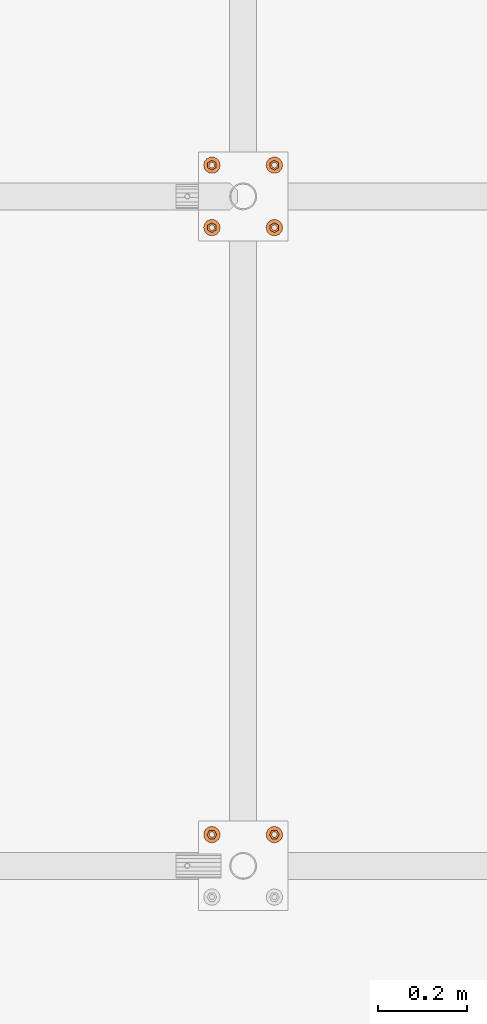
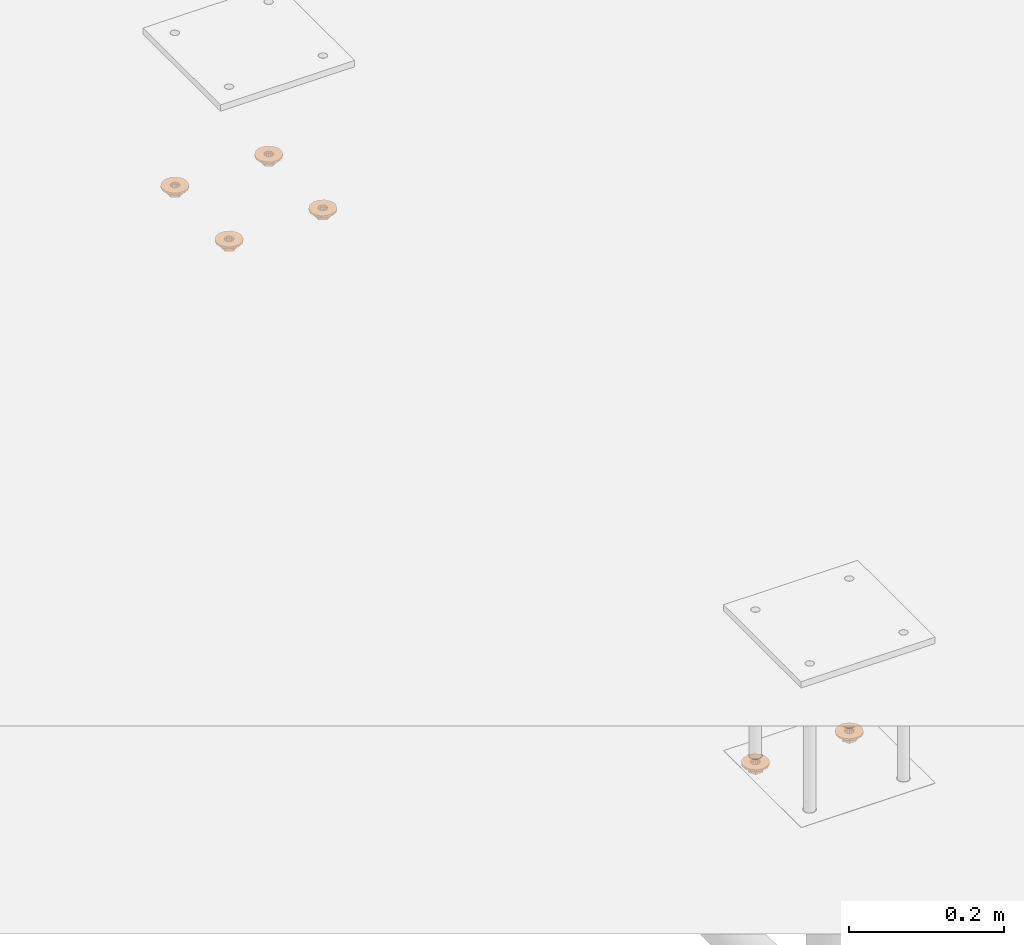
# One storey, part 22 of 30: 12 proxies.
"""IFC2X3 building model written with IfcOpenShell, lengths in millimetres."""

from ifc_helpers import new_model, entity, si_unit, converted_unit, origin_with_axes, place, context, project, spatial, faceted_brep, material, element, save


model = new_model("IFC2X3")

# Units and contexts
model_context = context("Model", 3, precision=1e-09, world=origin_with_axes())
ifc_project = project(units=[si_unit("LENGTHUNIT", "METRE", prefix="MILLI"), si_unit("AREAUNIT", "SQUARE_METRE"), si_unit("VOLUMEUNIT", "CUBIC_METRE"), converted_unit("PLANEANGLEUNIT", "DEGREE", entity("IfcPlaneAngleMeasure", 0.01745329), si_unit("PLANEANGLEUNIT", "RADIAN"), dimensions=[0, 0, 0, 0, 0, 0, 0])], contexts=[model_context])

# Site, building, storey
site_placement = place(None, origin_with_axes())
site = spatial("IfcSite", under=ifc_project, at=site_placement, Name="M?nsinger Stra?e, 81477 M?nchen", CompositionType="ELEMENT")
building_placement = place(site_placement, origin_with_axes())
building = spatial("IfcBuilding", under=site, at=building_placement, Name="Struktur 1", CompositionType="ELEMENT")
storey_placement = place(building_placement, origin_with_axes())
storey = spatial("IfcBuildingStorey", under=building, at=storey_placement, Name="Default Storey", CompositionType="ELEMENT", Elevation=0.0)

# Proxies
ifc_material = material(Name="Kein")
proxy_1_placement = place(None, origin_with_axes())
element("IfcBuildingElementProxy", 1, at=proxy_1_placement, inside=storey, material=ifc_material, ObjectType="-", context=model_context, shape_type="Brep", body=[
    faceted_brep([(4487.849678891, 3046.799376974, 6515.0), (4487.849678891, 3046.799376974, 6512.0), (4492.983041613, 3053.236410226, 6512.0), (4492.983041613, 3053.236410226, 6515.0), (4472.198480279, 3043.227093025, 6515.0), (4480.431754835, 3043.227093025, 6515.0), (4494.815117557, 3061.2632594, 6515.0), (4492.983041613, 3069.290108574, 6515.0), (4487.849678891, 3075.727141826, 6515.0), (4480.431754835, 3079.299425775, 6515.0), (4472.198480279, 3079.299425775, 6515.0), (4464.780556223, 3075.727141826, 6515.0), (4459.647193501, 3069.290108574, 6515.0), (4457.815117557, 3061.2632594, 6515.0), (4459.647193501, 3053.236410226, 6515.0), (4464.780556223, 3046.799376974, 6515.0), (4479.565117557, 3055.634094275, 6515.0), (4476.315117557, 3054.7632594, 6515.0), (4473.065117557, 3055.634094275, 6515.0), (4470.685952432, 3058.0132594, 6515.0), (4469.815117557, 3061.2632594, 6515.0), (4470.685952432, 3064.5132594, 6515.0), (4473.065117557, 3066.892424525, 6515.0), (4476.315117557, 3067.7632594, 6515.0), (4479.565117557, 3066.892424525, 6515.0), (4481.944282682, 3064.5132594, 6515.0), (4482.815117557, 3061.2632594, 6515.0), (4481.944282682, 3058.0132594, 6515.0), (4492.983041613, 3069.290108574, 6512.0), (4494.815117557, 3061.2632594, 6512.0), (4480.431754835, 3043.227093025, 6512.0), (4472.198480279, 3043.227093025, 6512.0), (4464.780556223, 3046.799376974, 6512.0), (4459.647193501, 3053.236410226, 6512.0), (4457.815117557, 3061.2632594, 6512.0), (4459.647193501, 3069.290108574, 6512.0), (4464.780556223, 3075.727141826, 6512.0), (4472.198480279, 3079.299425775, 6512.0), (4480.431754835, 3079.299425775, 6512.0), (4487.849678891, 3075.727141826, 6512.0), (4482.815117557, 3061.2632594, 6512.0), (4481.944282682, 3064.5132594, 6512.0), (4479.565117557, 3066.892424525, 6512.0), (4476.315117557, 3067.7632594, 6512.0), (4473.065117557, 3066.892424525, 6512.0), (4470.685952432, 3064.5132594, 6512.0), (4469.815117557, 3061.2632594, 6512.0), (4470.685952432, 3058.0132594, 6512.0), (4473.065117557, 3055.634094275, 6512.0), (4476.315117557, 3054.7632594, 6512.0), (4479.565117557, 3055.634094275, 6512.0), (4481.944282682, 3058.0132594, 6512.0)], [[[0, 1, 2, 3]], [[4, 5, 0, 3, 6, 7, 8, 9, 10, 11, 12, 13, 14, 15], [16, 17, 18, 19, 20, 21, 22, 23, 24, 25, 26, 27]], [[28, 29, 2, 1, 30, 31, 32, 33, 34, 35, 36, 37, 38, 39], [40, 41, 42, 43, 44, 45, 46, 47, 48, 49, 50, 51]], [[1, 0, 5, 30]], [[27, 51, 50, 16]], [[51, 27, 26, 40]], [[3, 2, 29, 6]], [[30, 5, 4, 31]], [[16, 50, 49, 17]], [[40, 26, 25, 41]], [[6, 29, 28, 7]], [[31, 4, 15, 32]], [[17, 49, 48, 18]], [[41, 25, 24, 42]], [[7, 28, 39, 8]], [[32, 15, 14, 33]], [[18, 48, 47, 19]], [[42, 24, 23, 43]], [[8, 39, 38, 9]], [[33, 14, 13, 34]], [[19, 47, 46, 20]], [[22, 44, 43, 23]], [[9, 38, 37, 10]], [[45, 21, 20, 46]], [[44, 22, 21, 45]], [[34, 13, 12, 35]], [[10, 37, 36, 11]], [[35, 12, 11, 36]]]),
])
proxy_2_placement = place(None, origin_with_axes())
element("IfcBuildingElementProxy", 2, at=proxy_2_placement, inside=storey, material=ifc_material, ObjectType="-", context=model_context, shape_type="Brep", body=[
    faceted_brep([(4482.315117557, 3061.2632594, 6512.0), (4482.315117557, 3061.2632594, 6502.0), (4481.51126998, 3058.2632594, 6502.0), (4481.51126998, 3058.2632594, 6512.0), (4479.315117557, 3056.067106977, 6502.0), (4479.315117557, 3056.067106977, 6512.0), (4481.51126998, 3064.2632594, 6512.0), (4481.51126998, 3064.2632594, 6502.0), (4485.815117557, 3066.748086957, 6512.0), (4476.315117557, 3072.232914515, 6512.0), (4466.815117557, 3066.748086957, 6512.0), (4466.815117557, 3055.778431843, 6512.0), (4476.315117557, 3050.293604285, 6512.0), (4485.815117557, 3055.778431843, 6512.0), (4479.315117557, 3066.459411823, 6512.0), (4476.315117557, 3055.2632594, 6512.0), (4473.315117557, 3056.067106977, 6512.0), (4471.118965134, 3058.2632594, 6512.0), (4470.315117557, 3061.2632594, 6512.0), (4471.118965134, 3064.2632594, 6512.0), (4473.315117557, 3066.459411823, 6512.0), (4476.315117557, 3067.2632594, 6512.0), (4476.315117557, 3072.232914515, 6502.0), (4485.815117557, 3066.748086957, 6502.0), (4485.815117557, 3055.778431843, 6502.0), (4476.315117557, 3050.293604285, 6502.0), (4466.815117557, 3055.778431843, 6502.0), (4466.815117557, 3066.748086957, 6502.0), (4479.315117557, 3066.459411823, 6502.0), (4476.315117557, 3067.2632594, 6502.0), (4473.315117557, 3066.459411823, 6502.0), (4471.118965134, 3064.2632594, 6502.0), (4470.315117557, 3061.2632594, 6502.0), (4471.118965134, 3058.2632594, 6502.0), (4473.315117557, 3056.067106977, 6502.0), (4476.315117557, 3055.2632594, 6502.0)], [[[0, 1, 2, 3]], [[3, 2, 4, 5]], [[1, 0, 6, 7]], [[8, 9, 10, 11, 12, 13], [14, 6, 0, 3, 5, 15, 16, 17, 18, 19, 20, 21]], [[22, 23, 24, 25, 26, 27], [1, 7, 28, 29, 30, 31, 32, 33, 34, 35, 4, 2]], [[7, 6, 14, 28]], [[24, 23, 8, 13]], [[5, 4, 35, 15]], [[13, 12, 25, 24]], [[28, 14, 21, 29]], [[23, 22, 9, 8]], [[15, 35, 34, 16]], [[12, 11, 26, 25]], [[29, 21, 20, 30]], [[22, 27, 10, 9]], [[16, 34, 33, 17]], [[27, 26, 11, 10]], [[30, 20, 19, 31]], [[17, 33, 32, 18]], [[31, 19, 18, 32]]]),
])
proxy_3_placement = place(None, origin_with_axes())
element("IfcBuildingElementProxy", 3, at=proxy_3_placement, inside=storey, material=ifc_material, ObjectType="-", context=model_context, shape_type="Brep", body=[
    faceted_brep([(4342.315117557, 3061.2632594, 6512.0), (4342.315117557, 3061.2632594, 6502.0), (4341.51126998, 3058.2632594, 6502.0), (4341.51126998, 3058.2632594, 6512.0), (4339.315117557, 3056.067106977, 6502.0), (4339.315117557, 3056.067106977, 6512.0), (4341.51126998, 3064.2632594, 6512.0), (4341.51126998, 3064.2632594, 6502.0), (4345.815117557, 3066.748086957, 6512.0), (4336.315117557, 3072.232914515, 6512.0), (4326.815117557, 3066.748086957, 6512.0), (4326.815117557, 3055.778431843, 6512.0), (4336.315117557, 3050.293604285, 6512.0), (4345.815117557, 3055.778431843, 6512.0), (4339.315117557, 3066.459411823, 6512.0), (4336.315117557, 3055.2632594, 6512.0), (4333.315117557, 3056.067106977, 6512.0), (4331.118965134, 3058.2632594, 6512.0), (4330.315117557, 3061.2632594, 6512.0), (4331.118965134, 3064.2632594, 6512.0), (4333.315117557, 3066.459411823, 6512.0), (4336.315117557, 3067.2632594, 6512.0), (4336.315117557, 3072.232914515, 6502.0), (4345.815117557, 3066.748086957, 6502.0), (4345.815117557, 3055.778431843, 6502.0), (4336.315117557, 3050.293604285, 6502.0), (4326.815117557, 3055.778431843, 6502.0), (4326.815117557, 3066.748086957, 6502.0), (4339.315117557, 3066.459411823, 6502.0), (4336.315117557, 3067.2632594, 6502.0), (4333.315117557, 3066.459411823, 6502.0), (4331.118965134, 3064.2632594, 6502.0), (4330.315117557, 3061.2632594, 6502.0), (4331.118965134, 3058.2632594, 6502.0), (4333.315117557, 3056.067106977, 6502.0), (4336.315117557, 3055.2632594, 6502.0)], [[[0, 1, 2, 3]], [[3, 2, 4, 5]], [[1, 0, 6, 7]], [[8, 9, 10, 11, 12, 13], [14, 6, 0, 3, 5, 15, 16, 17, 18, 19, 20, 21]], [[22, 23, 24, 25, 26, 27], [1, 7, 28, 29, 30, 31, 32, 33, 34, 35, 4, 2]], [[7, 6, 14, 28]], [[24, 23, 8, 13]], [[5, 4, 35, 15]], [[13, 12, 25, 24]], [[28, 14, 21, 29]], [[23, 22, 9, 8]], [[15, 35, 34, 16]], [[12, 11, 26, 25]], [[29, 21, 20, 30]], [[22, 27, 10, 9]], [[16, 34, 33, 17]], [[27, 26, 11, 10]], [[30, 20, 19, 31]], [[17, 33, 32, 18]], [[31, 19, 18, 32]]]),
])
proxy_4_placement = place(None, origin_with_axes())
element("IfcBuildingElementProxy", 4, at=proxy_4_placement, inside=storey, material=ifc_material, ObjectType="-", context=model_context, shape_type="Brep", body=[
    faceted_brep([(4347.849678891, 3046.799376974, 6515.0), (4347.849678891, 3046.799376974, 6512.0), (4352.983041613, 3053.236410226, 6512.0), (4352.983041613, 3053.236410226, 6515.0), (4332.198480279, 3043.227093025, 6515.0), (4340.431754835, 3043.227093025, 6515.0), (4354.815117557, 3061.2632594, 6515.0), (4352.983041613, 3069.290108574, 6515.0), (4347.849678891, 3075.727141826, 6515.0), (4340.431754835, 3079.299425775, 6515.0), (4332.198480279, 3079.299425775, 6515.0), (4324.780556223, 3075.727141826, 6515.0), (4319.647193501, 3069.290108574, 6515.0), (4317.815117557, 3061.2632594, 6515.0), (4319.647193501, 3053.236410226, 6515.0), (4324.780556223, 3046.799376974, 6515.0), (4339.565117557, 3055.634094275, 6515.0), (4336.315117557, 3054.7632594, 6515.0), (4333.065117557, 3055.634094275, 6515.0), (4330.685952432, 3058.0132594, 6515.0), (4329.815117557, 3061.2632594, 6515.0), (4330.685952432, 3064.5132594, 6515.0), (4333.065117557, 3066.892424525, 6515.0), (4336.315117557, 3067.7632594, 6515.0), (4339.565117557, 3066.892424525, 6515.0), (4341.944282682, 3064.5132594, 6515.0), (4342.815117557, 3061.2632594, 6515.0), (4341.944282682, 3058.0132594, 6515.0), (4352.983041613, 3069.290108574, 6512.0), (4354.815117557, 3061.2632594, 6512.0), (4340.431754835, 3043.227093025, 6512.0), (4332.198480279, 3043.227093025, 6512.0), (4324.780556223, 3046.799376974, 6512.0), (4319.647193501, 3053.236410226, 6512.0), (4317.815117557, 3061.2632594, 6512.0), (4319.647193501, 3069.290108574, 6512.0), (4324.780556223, 3075.727141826, 6512.0), (4332.198480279, 3079.299425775, 6512.0), (4340.431754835, 3079.299425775, 6512.0), (4347.849678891, 3075.727141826, 6512.0), (4342.815117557, 3061.2632594, 6512.0), (4341.944282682, 3064.5132594, 6512.0), (4339.565117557, 3066.892424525, 6512.0), (4336.315117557, 3067.7632594, 6512.0), (4333.065117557, 3066.892424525, 6512.0), (4330.685952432, 3064.5132594, 6512.0), (4329.815117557, 3061.2632594, 6512.0), (4330.685952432, 3058.0132594, 6512.0), (4333.065117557, 3055.634094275, 6512.0), (4336.315117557, 3054.7632594, 6512.0), (4339.565117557, 3055.634094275, 6512.0), (4341.944282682, 3058.0132594, 6512.0)], [[[0, 1, 2, 3]], [[4, 5, 0, 3, 6, 7, 8, 9, 10, 11, 12, 13, 14, 15], [16, 17, 18, 19, 20, 21, 22, 23, 24, 25, 26, 27]], [[28, 29, 2, 1, 30, 31, 32, 33, 34, 35, 36, 37, 38, 39], [40, 41, 42, 43, 44, 45, 46, 47, 48, 49, 50, 51]], [[1, 0, 5, 30]], [[27, 51, 50, 16]], [[51, 27, 26, 40]], [[3, 2, 29, 6]], [[30, 5, 4, 31]], [[16, 50, 49, 17]], [[40, 26, 25, 41]], [[6, 29, 28, 7]], [[31, 4, 15, 32]], [[17, 49, 48, 18]], [[41, 25, 24, 42]], [[7, 28, 39, 8]], [[32, 15, 14, 33]], [[18, 48, 47, 19]], [[42, 24, 23, 43]], [[8, 39, 38, 9]], [[33, 14, 13, 34]], [[19, 47, 46, 20]], [[22, 44, 43, 23]], [[9, 38, 37, 10]], [[45, 21, 20, 46]], [[44, 22, 21, 45]], [[34, 13, 12, 35]], [[10, 37, 36, 11]], [[35, 12, 11, 36]]]),
])
proxy_5_placement = place(None, origin_with_axes())
element("IfcBuildingElementProxy", 5, at=proxy_5_placement, inside=storey, material=ifc_material, ObjectType="-", context=model_context, shape_type="Brep", body=[
    faceted_brep([(4347.849678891, 2906.799376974, 6515.0), (4347.849678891, 2906.799376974, 6512.0), (4352.983041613, 2913.236410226, 6512.0), (4352.983041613, 2913.236410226, 6515.0), (4332.198480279, 2903.227093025, 6515.0), (4340.431754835, 2903.227093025, 6515.0), (4354.815117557, 2921.2632594, 6515.0), (4352.983041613, 2929.290108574, 6515.0), (4347.849678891, 2935.727141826, 6515.0), (4340.431754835, 2939.299425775, 6515.0), (4332.198480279, 2939.299425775, 6515.0), (4324.780556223, 2935.727141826, 6515.0), (4319.647193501, 2929.290108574, 6515.0), (4317.815117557, 2921.2632594, 6515.0), (4319.647193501, 2913.236410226, 6515.0), (4324.780556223, 2906.799376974, 6515.0), (4339.565117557, 2915.634094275, 6515.0), (4336.315117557, 2914.7632594, 6515.0), (4333.065117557, 2915.634094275, 6515.0), (4330.685952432, 2918.0132594, 6515.0), (4329.815117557, 2921.2632594, 6515.0), (4330.685952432, 2924.5132594, 6515.0), (4333.065117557, 2926.892424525, 6515.0), (4336.315117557, 2927.7632594, 6515.0), (4339.565117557, 2926.892424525, 6515.0), (4341.944282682, 2924.5132594, 6515.0), (4342.815117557, 2921.2632594, 6515.0), (4341.944282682, 2918.0132594, 6515.0), (4352.983041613, 2929.290108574, 6512.0), (4354.815117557, 2921.2632594, 6512.0), (4340.431754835, 2903.227093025, 6512.0), (4332.198480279, 2903.227093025, 6512.0), (4324.780556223, 2906.799376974, 6512.0), (4319.647193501, 2913.236410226, 6512.0), (4317.815117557, 2921.2632594, 6512.0), (4319.647193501, 2929.290108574, 6512.0), (4324.780556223, 2935.727141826, 6512.0), (4332.198480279, 2939.299425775, 6512.0), (4340.431754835, 2939.299425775, 6512.0), (4347.849678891, 2935.727141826, 6512.0), (4342.815117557, 2921.2632594, 6512.0), (4341.944282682, 2924.5132594, 6512.0), (4339.565117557, 2926.892424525, 6512.0), (4336.315117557, 2927.7632594, 6512.0), (4333.065117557, 2926.892424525, 6512.0), (4330.685952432, 2924.5132594, 6512.0), (4329.815117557, 2921.2632594, 6512.0), (4330.685952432, 2918.0132594, 6512.0), (4333.065117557, 2915.634094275, 6512.0), (4336.315117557, 2914.7632594, 6512.0), (4339.565117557, 2915.634094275, 6512.0), (4341.944282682, 2918.0132594, 6512.0)], [[[0, 1, 2, 3]], [[4, 5, 0, 3, 6, 7, 8, 9, 10, 11, 12, 13, 14, 15], [16, 17, 18, 19, 20, 21, 22, 23, 24, 25, 26, 27]], [[28, 29, 2, 1, 30, 31, 32, 33, 34, 35, 36, 37, 38, 39], [40, 41, 42, 43, 44, 45, 46, 47, 48, 49, 50, 51]], [[1, 0, 5, 30]], [[27, 51, 50, 16]], [[51, 27, 26, 40]], [[3, 2, 29, 6]], [[30, 5, 4, 31]], [[16, 50, 49, 17]], [[40, 26, 25, 41]], [[6, 29, 28, 7]], [[31, 4, 15, 32]], [[17, 49, 48, 18]], [[41, 25, 24, 42]], [[7, 28, 39, 8]], [[32, 15, 14, 33]], [[18, 48, 47, 19]], [[42, 24, 23, 43]], [[8, 39, 38, 9]], [[33, 14, 13, 34]], [[19, 47, 46, 20]], [[22, 44, 43, 23]], [[9, 38, 37, 10]], [[45, 21, 20, 46]], [[44, 22, 21, 45]], [[34, 13, 12, 35]], [[10, 37, 36, 11]], [[35, 12, 11, 36]]]),
])
proxy_6_placement = place(None, origin_with_axes())
element("IfcBuildingElementProxy", 6, at=proxy_6_placement, inside=storey, material=ifc_material, ObjectType="-", context=model_context, shape_type="Brep", body=[
    faceted_brep([(4342.315117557, 2921.2632594, 6512.0), (4342.315117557, 2921.2632594, 6502.0), (4341.51126998, 2918.2632594, 6502.0), (4341.51126998, 2918.2632594, 6512.0), (4339.315117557, 2916.067106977, 6502.0), (4339.315117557, 2916.067106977, 6512.0), (4341.51126998, 2924.2632594, 6512.0), (4341.51126998, 2924.2632594, 6502.0), (4345.815117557, 2926.748086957, 6512.0), (4336.315117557, 2932.232914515, 6512.0), (4326.815117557, 2926.748086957, 6512.0), (4326.815117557, 2915.778431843, 6512.0), (4336.315117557, 2910.293604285, 6512.0), (4345.815117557, 2915.778431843, 6512.0), (4339.315117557, 2926.459411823, 6512.0), (4336.315117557, 2915.2632594, 6512.0), (4333.315117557, 2916.067106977, 6512.0), (4331.118965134, 2918.2632594, 6512.0), (4330.315117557, 2921.2632594, 6512.0), (4331.118965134, 2924.2632594, 6512.0), (4333.315117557, 2926.459411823, 6512.0), (4336.315117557, 2927.2632594, 6512.0), (4336.315117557, 2932.232914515, 6502.0), (4345.815117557, 2926.748086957, 6502.0), (4345.815117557, 2915.778431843, 6502.0), (4336.315117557, 2910.293604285, 6502.0), (4326.815117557, 2915.778431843, 6502.0), (4326.815117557, 2926.748086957, 6502.0), (4339.315117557, 2926.459411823, 6502.0), (4336.315117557, 2927.2632594, 6502.0), (4333.315117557, 2926.459411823, 6502.0), (4331.118965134, 2924.2632594, 6502.0), (4330.315117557, 2921.2632594, 6502.0), (4331.118965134, 2918.2632594, 6502.0), (4333.315117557, 2916.067106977, 6502.0), (4336.315117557, 2915.2632594, 6502.0)], [[[0, 1, 2, 3]], [[3, 2, 4, 5]], [[1, 0, 6, 7]], [[8, 9, 10, 11, 12, 13], [14, 6, 0, 3, 5, 15, 16, 17, 18, 19, 20, 21]], [[22, 23, 24, 25, 26, 27], [1, 7, 28, 29, 30, 31, 32, 33, 34, 35, 4, 2]], [[7, 6, 14, 28]], [[24, 23, 8, 13]], [[5, 4, 35, 15]], [[13, 12, 25, 24]], [[28, 14, 21, 29]], [[23, 22, 9, 8]], [[15, 35, 34, 16]], [[12, 11, 26, 25]], [[29, 21, 20, 30]], [[22, 27, 10, 9]], [[16, 34, 33, 17]], [[27, 26, 11, 10]], [[30, 20, 19, 31]], [[17, 33, 32, 18]], [[31, 19, 18, 32]]]),
])
proxy_7_placement = place(None, origin_with_axes())
element("IfcBuildingElementProxy", 7, at=proxy_7_placement, inside=storey, material=ifc_material, ObjectType="-", context=model_context, shape_type="Brep", body=[
    faceted_brep([(4482.315117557, 2921.2632594, 6512.0), (4482.315117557, 2921.2632594, 6502.0), (4481.51126998, 2918.2632594, 6502.0), (4481.51126998, 2918.2632594, 6512.0), (4479.315117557, 2916.067106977, 6502.0), (4479.315117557, 2916.067106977, 6512.0), (4481.51126998, 2924.2632594, 6512.0), (4481.51126998, 2924.2632594, 6502.0), (4485.815117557, 2926.748086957, 6512.0), (4476.315117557, 2932.232914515, 6512.0), (4466.815117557, 2926.748086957, 6512.0), (4466.815117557, 2915.778431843, 6512.0), (4476.315117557, 2910.293604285, 6512.0), (4485.815117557, 2915.778431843, 6512.0), (4479.315117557, 2926.459411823, 6512.0), (4476.315117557, 2915.2632594, 6512.0), (4473.315117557, 2916.067106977, 6512.0), (4471.118965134, 2918.2632594, 6512.0), (4470.315117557, 2921.2632594, 6512.0), (4471.118965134, 2924.2632594, 6512.0), (4473.315117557, 2926.459411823, 6512.0), (4476.315117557, 2927.2632594, 6512.0), (4476.315117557, 2932.232914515, 6502.0), (4485.815117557, 2926.748086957, 6502.0), (4485.815117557, 2915.778431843, 6502.0), (4476.315117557, 2910.293604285, 6502.0), (4466.815117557, 2915.778431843, 6502.0), (4466.815117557, 2926.748086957, 6502.0), (4479.315117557, 2926.459411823, 6502.0), (4476.315117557, 2927.2632594, 6502.0), (4473.315117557, 2926.459411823, 6502.0), (4471.118965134, 2924.2632594, 6502.0), (4470.315117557, 2921.2632594, 6502.0), (4471.118965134, 2918.2632594, 6502.0), (4473.315117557, 2916.067106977, 6502.0), (4476.315117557, 2915.2632594, 6502.0)], [[[0, 1, 2, 3]], [[3, 2, 4, 5]], [[1, 0, 6, 7]], [[8, 9, 10, 11, 12, 13], [14, 6, 0, 3, 5, 15, 16, 17, 18, 19, 20, 21]], [[22, 23, 24, 25, 26, 27], [1, 7, 28, 29, 30, 31, 32, 33, 34, 35, 4, 2]], [[7, 6, 14, 28]], [[24, 23, 8, 13]], [[5, 4, 35, 15]], [[13, 12, 25, 24]], [[28, 14, 21, 29]], [[23, 22, 9, 8]], [[15, 35, 34, 16]], [[12, 11, 26, 25]], [[29, 21, 20, 30]], [[22, 27, 10, 9]], [[16, 34, 33, 17]], [[27, 26, 11, 10]], [[30, 20, 19, 31]], [[17, 33, 32, 18]], [[31, 19, 18, 32]]]),
])
proxy_8_placement = place(None, origin_with_axes())
element("IfcBuildingElementProxy", 8, at=proxy_8_placement, inside=storey, material=ifc_material, ObjectType="-", context=model_context, shape_type="Brep", body=[
    faceted_brep([(4487.849678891, 2906.799376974, 6515.0), (4487.849678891, 2906.799376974, 6512.0), (4492.983041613, 2913.236410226, 6512.0), (4492.983041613, 2913.236410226, 6515.0), (4472.198480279, 2903.227093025, 6515.0), (4480.431754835, 2903.227093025, 6515.0), (4494.815117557, 2921.2632594, 6515.0), (4492.983041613, 2929.290108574, 6515.0), (4487.849678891, 2935.727141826, 6515.0), (4480.431754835, 2939.299425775, 6515.0), (4472.198480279, 2939.299425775, 6515.0), (4464.780556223, 2935.727141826, 6515.0), (4459.647193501, 2929.290108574, 6515.0), (4457.815117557, 2921.2632594, 6515.0), (4459.647193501, 2913.236410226, 6515.0), (4464.780556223, 2906.799376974, 6515.0), (4479.565117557, 2915.634094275, 6515.0), (4476.315117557, 2914.7632594, 6515.0), (4473.065117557, 2915.634094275, 6515.0), (4470.685952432, 2918.0132594, 6515.0), (4469.815117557, 2921.2632594, 6515.0), (4470.685952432, 2924.5132594, 6515.0), (4473.065117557, 2926.892424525, 6515.0), (4476.315117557, 2927.7632594, 6515.0), (4479.565117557, 2926.892424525, 6515.0), (4481.944282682, 2924.5132594, 6515.0), (4482.815117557, 2921.2632594, 6515.0), (4481.944282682, 2918.0132594, 6515.0), (4492.983041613, 2929.290108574, 6512.0), (4494.815117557, 2921.2632594, 6512.0), (4480.431754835, 2903.227093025, 6512.0), (4472.198480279, 2903.227093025, 6512.0), (4464.780556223, 2906.799376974, 6512.0), (4459.647193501, 2913.236410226, 6512.0), (4457.815117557, 2921.2632594, 6512.0), (4459.647193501, 2929.290108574, 6512.0), (4464.780556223, 2935.727141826, 6512.0), (4472.198480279, 2939.299425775, 6512.0), (4480.431754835, 2939.299425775, 6512.0), (4487.849678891, 2935.727141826, 6512.0), (4482.815117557, 2921.2632594, 6512.0), (4481.944282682, 2924.5132594, 6512.0), (4479.565117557, 2926.892424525, 6512.0), (4476.315117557, 2927.7632594, 6512.0), (4473.065117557, 2926.892424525, 6512.0), (4470.685952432, 2924.5132594, 6512.0), (4469.815117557, 2921.2632594, 6512.0), (4470.685952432, 2918.0132594, 6512.0), (4473.065117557, 2915.634094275, 6512.0), (4476.315117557, 2914.7632594, 6512.0), (4479.565117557, 2915.634094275, 6512.0), (4481.944282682, 2918.0132594, 6512.0)], [[[0, 1, 2, 3]], [[4, 5, 0, 3, 6, 7, 8, 9, 10, 11, 12, 13, 14, 15], [16, 17, 18, 19, 20, 21, 22, 23, 24, 25, 26, 27]], [[28, 29, 2, 1, 30, 31, 32, 33, 34, 35, 36, 37, 38, 39], [40, 41, 42, 43, 44, 45, 46, 47, 48, 49, 50, 51]], [[1, 0, 5, 30]], [[27, 51, 50, 16]], [[51, 27, 26, 40]], [[3, 2, 29, 6]], [[30, 5, 4, 31]], [[16, 50, 49, 17]], [[40, 26, 25, 41]], [[6, 29, 28, 7]], [[31, 4, 15, 32]], [[17, 49, 48, 18]], [[41, 25, 24, 42]], [[7, 28, 39, 8]], [[32, 15, 14, 33]], [[18, 48, 47, 19]], [[42, 24, 23, 43]], [[8, 39, 38, 9]], [[33, 14, 13, 34]], [[19, 47, 46, 20]], [[22, 44, 43, 23]], [[9, 38, 37, 10]], [[45, 21, 20, 46]], [[44, 22, 21, 45]], [[34, 13, 12, 35]], [[10, 37, 36, 11]], [[35, 12, 11, 36]]]),
])
proxy_9_placement = place(None, origin_with_axes())
element("IfcBuildingElementProxy", 9, at=proxy_9_placement, inside=storey, material=ifc_material, ObjectType="-", context=model_context, shape_type="Brep", body=[
    faceted_brep([(4336.315117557, 1555.2632594, 6502.0), (4336.315117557, 1555.2632594, 6512.0), (4339.315117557, 1556.067106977, 6512.0), (4339.315117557, 1556.067106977, 6502.0), (4341.51126998, 1558.2632594, 6512.0), (4341.51126998, 1558.2632594, 6502.0), (4333.315117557, 1556.067106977, 6502.0), (4333.315117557, 1556.067106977, 6512.0), (4330.83029, 1551.7632594, 6512.0), (4341.799945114, 1551.7632594, 6512.0), (4347.284772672, 1561.2632594, 6512.0), (4341.799945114, 1570.7632594, 6512.0), (4330.83029, 1570.7632594, 6512.0), (4325.345462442, 1561.2632594, 6512.0), (4331.118965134, 1558.2632594, 6512.0), (4330.315117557, 1561.2632594, 6512.0), (4331.118965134, 1564.2632594, 6512.0), (4333.315117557, 1566.459411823, 6512.0), (4336.315117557, 1567.2632594, 6512.0), (4339.315117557, 1566.459411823, 6512.0), (4341.51126998, 1564.2632594, 6512.0), (4342.315117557, 1561.2632594, 6512.0), (4330.83029, 1551.7632594, 6502.0), (4325.345462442, 1561.2632594, 6502.0), (4330.83029, 1570.7632594, 6502.0), (4341.799945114, 1570.7632594, 6502.0), (4347.284772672, 1561.2632594, 6502.0), (4341.799945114, 1551.7632594, 6502.0), (4331.118965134, 1558.2632594, 6502.0), (4342.315117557, 1561.2632594, 6502.0), (4330.315117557, 1561.2632594, 6502.0), (4341.51126998, 1564.2632594, 6502.0), (4331.118965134, 1564.2632594, 6502.0), (4339.315117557, 1566.459411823, 6502.0), (4333.315117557, 1566.459411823, 6502.0), (4336.315117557, 1567.2632594, 6502.0)], [[[0, 1, 2, 3]], [[3, 2, 4, 5]], [[1, 0, 6, 7]], [[8, 9, 10, 11, 12, 13], [7, 14, 15, 16, 17, 18, 19, 20, 21, 4, 2, 1]], [[22, 23, 24, 25, 26, 27]], [[7, 6, 28, 14]], [[22, 27, 9, 8]], [[5, 4, 21, 29]], [[10, 9, 27, 26]], [[14, 28, 30, 15]], [[23, 22, 8, 13]], [[29, 21, 20, 31]], [[11, 10, 26, 25]], [[15, 30, 32, 16]], [[24, 23, 13, 12]], [[31, 20, 19, 33]], [[25, 24, 12, 11]], [[16, 32, 34, 17]], [[33, 19, 18, 35]], [[17, 34, 35, 18]]]),
])
proxy_10_placement = place(None, origin_with_axes())
element("IfcBuildingElementProxy", 10, at=proxy_10_placement, inside=storey, material=ifc_material, ObjectType="-", context=model_context, shape_type="Brep", body=[
    faceted_brep([(4350.778999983, 1549.728698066, 6512.0), (4350.778999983, 1549.728698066, 6515.0), (4344.341966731, 1544.595335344, 6515.0), (4344.341966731, 1544.595335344, 6512.0), (4354.351283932, 1557.146622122, 6515.0), (4354.351283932, 1565.379896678, 6515.0), (4350.778999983, 1572.797820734, 6515.0), (4344.341966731, 1577.931183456, 6515.0), (4336.315117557, 1579.7632594, 6515.0), (4328.288268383, 1577.931183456, 6515.0), (4321.851235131, 1572.797820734, 6515.0), (4318.278951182, 1565.379896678, 6515.0), (4318.278951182, 1557.146622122, 6515.0), (4321.851235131, 1549.728698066, 6515.0), (4328.288268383, 1544.595335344, 6515.0), (4336.315117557, 1542.7632594, 6515.0), (4341.944282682, 1558.0132594, 6515.0), (4339.565117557, 1555.634094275, 6515.0), (4336.315117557, 1554.7632594, 6515.0), (4333.065117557, 1555.634094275, 6515.0), (4330.685952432, 1558.0132594, 6515.0), (4329.815117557, 1561.2632594, 6515.0), (4330.685952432, 1564.5132594, 6515.0), (4333.065117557, 1566.892424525, 6515.0), (4336.315117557, 1567.7632594, 6515.0), (4339.565117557, 1566.892424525, 6515.0), (4341.944282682, 1564.5132594, 6515.0), (4342.815117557, 1561.2632594, 6515.0), (4336.315117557, 1542.7632594, 6512.0), (4328.288268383, 1544.595335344, 6512.0), (4321.851235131, 1549.728698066, 6512.0), (4318.278951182, 1557.146622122, 6512.0), (4318.278951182, 1565.379896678, 6512.0), (4321.851235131, 1572.797820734, 6512.0), (4328.288268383, 1577.931183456, 6512.0), (4336.315117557, 1579.7632594, 6512.0), (4344.341966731, 1577.931183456, 6512.0), (4350.778999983, 1572.797820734, 6512.0), (4354.351283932, 1565.379896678, 6512.0), (4354.351283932, 1557.146622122, 6512.0), (4336.315117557, 1554.7632594, 6512.0), (4339.565117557, 1555.634094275, 6512.0), (4341.944282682, 1558.0132594, 6512.0), (4342.815117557, 1561.2632594, 6512.0), (4341.944282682, 1564.5132594, 6512.0), (4339.565117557, 1566.892424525, 6512.0), (4336.315117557, 1567.7632594, 6512.0), (4333.065117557, 1566.892424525, 6512.0), (4330.685952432, 1564.5132594, 6512.0), (4329.815117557, 1561.2632594, 6512.0), (4330.685952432, 1558.0132594, 6512.0), (4333.065117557, 1555.634094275, 6512.0)], [[[0, 1, 2, 3]], [[4, 5, 6, 7, 8, 9, 10, 11, 12, 13, 14, 15, 2, 1], [16, 17, 18, 19, 20, 21, 22, 23, 24, 25, 26, 27]], [[28, 29, 30, 31, 32, 33, 34, 35, 36, 37, 38, 39, 0, 3], [40, 41, 42, 43, 44, 45, 46, 47, 48, 49, 50, 51]], [[1, 0, 39, 4]], [[41, 17, 16, 42]], [[17, 41, 40, 18]], [[3, 2, 15, 28]], [[4, 39, 38, 5]], [[42, 16, 27, 43]], [[18, 40, 51, 19]], [[28, 15, 14, 29]], [[5, 38, 37, 6]], [[43, 27, 26, 44]], [[19, 51, 50, 20]], [[29, 14, 13, 30]], [[6, 37, 36, 7]], [[44, 26, 25, 45]], [[20, 50, 49, 21]], [[30, 13, 12, 31]], [[7, 36, 35, 8]], [[45, 25, 24, 46]], [[48, 22, 21, 49]], [[31, 12, 11, 32]], [[23, 47, 46, 24]], [[22, 48, 47, 23]], [[8, 35, 34, 9]], [[32, 11, 10, 33]], [[9, 34, 33, 10]]]),
])
proxy_11_placement = place(None, origin_with_axes())
element("IfcBuildingElementProxy", 11, at=proxy_11_placement, inside=storey, material=ifc_material, ObjectType="-", context=model_context, shape_type="Brep", body=[
    faceted_brep([(4490.778999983, 1549.728698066, 6512.0), (4490.778999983, 1549.728698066, 6515.0), (4484.341966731, 1544.595335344, 6515.0), (4484.341966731, 1544.595335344, 6512.0), (4494.351283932, 1557.146622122, 6515.0), (4494.351283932, 1565.379896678, 6515.0), (4490.778999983, 1572.797820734, 6515.0), (4484.341966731, 1577.931183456, 6515.0), (4476.315117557, 1579.7632594, 6515.0), (4468.288268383, 1577.931183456, 6515.0), (4461.851235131, 1572.797820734, 6515.0), (4458.278951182, 1565.379896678, 6515.0), (4458.278951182, 1557.146622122, 6515.0), (4461.851235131, 1549.728698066, 6515.0), (4468.288268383, 1544.595335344, 6515.0), (4476.315117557, 1542.7632594, 6515.0), (4481.944282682, 1558.0132594, 6515.0), (4479.565117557, 1555.634094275, 6515.0), (4476.315117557, 1554.7632594, 6515.0), (4473.065117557, 1555.634094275, 6515.0), (4470.685952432, 1558.0132594, 6515.0), (4469.815117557, 1561.2632594, 6515.0), (4470.685952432, 1564.5132594, 6515.0), (4473.065117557, 1566.892424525, 6515.0), (4476.315117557, 1567.7632594, 6515.0), (4479.565117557, 1566.892424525, 6515.0), (4481.944282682, 1564.5132594, 6515.0), (4482.815117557, 1561.2632594, 6515.0), (4476.315117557, 1542.7632594, 6512.0), (4468.288268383, 1544.595335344, 6512.0), (4461.851235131, 1549.728698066, 6512.0), (4458.278951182, 1557.146622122, 6512.0), (4458.278951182, 1565.379896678, 6512.0), (4461.851235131, 1572.797820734, 6512.0), (4468.288268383, 1577.931183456, 6512.0), (4476.315117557, 1579.7632594, 6512.0), (4484.341966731, 1577.931183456, 6512.0), (4490.778999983, 1572.797820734, 6512.0), (4494.351283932, 1565.379896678, 6512.0), (4494.351283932, 1557.146622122, 6512.0), (4476.315117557, 1554.7632594, 6512.0), (4479.565117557, 1555.634094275, 6512.0), (4481.944282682, 1558.0132594, 6512.0), (4482.815117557, 1561.2632594, 6512.0), (4481.944282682, 1564.5132594, 6512.0), (4479.565117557, 1566.892424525, 6512.0), (4476.315117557, 1567.7632594, 6512.0), (4473.065117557, 1566.892424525, 6512.0), (4470.685952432, 1564.5132594, 6512.0), (4469.815117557, 1561.2632594, 6512.0), (4470.685952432, 1558.0132594, 6512.0), (4473.065117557, 1555.634094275, 6512.0)], [[[0, 1, 2, 3]], [[4, 5, 6, 7, 8, 9, 10, 11, 12, 13, 14, 15, 2, 1], [16, 17, 18, 19, 20, 21, 22, 23, 24, 25, 26, 27]], [[28, 29, 30, 31, 32, 33, 34, 35, 36, 37, 38, 39, 0, 3], [40, 41, 42, 43, 44, 45, 46, 47, 48, 49, 50, 51]], [[1, 0, 39, 4]], [[41, 17, 16, 42]], [[17, 41, 40, 18]], [[3, 2, 15, 28]], [[4, 39, 38, 5]], [[42, 16, 27, 43]], [[18, 40, 51, 19]], [[28, 15, 14, 29]], [[5, 38, 37, 6]], [[43, 27, 26, 44]], [[19, 51, 50, 20]], [[29, 14, 13, 30]], [[6, 37, 36, 7]], [[44, 26, 25, 45]], [[20, 50, 49, 21]], [[30, 13, 12, 31]], [[7, 36, 35, 8]], [[45, 25, 24, 46]], [[48, 22, 21, 49]], [[31, 12, 11, 32]], [[23, 47, 46, 24]], [[22, 48, 47, 23]], [[8, 35, 34, 9]], [[32, 11, 10, 33]], [[9, 34, 33, 10]]]),
])
proxy_12_placement = place(None, origin_with_axes())
element("IfcBuildingElementProxy", 12, at=proxy_12_placement, inside=storey, material=ifc_material, ObjectType="-", context=model_context, shape_type="Brep", body=[
    faceted_brep([(4476.315117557, 1555.2632594, 6502.0), (4476.315117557, 1555.2632594, 6512.0), (4479.315117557, 1556.067106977, 6512.0), (4479.315117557, 1556.067106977, 6502.0), (4481.51126998, 1558.2632594, 6512.0), (4481.51126998, 1558.2632594, 6502.0), (4473.315117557, 1556.067106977, 6502.0), (4473.315117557, 1556.067106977, 6512.0), (4470.83029, 1551.7632594, 6512.0), (4481.799945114, 1551.7632594, 6512.0), (4487.284772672, 1561.2632594, 6512.0), (4481.799945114, 1570.7632594, 6512.0), (4470.83029, 1570.7632594, 6512.0), (4465.345462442, 1561.2632594, 6512.0), (4471.118965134, 1558.2632594, 6512.0), (4470.315117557, 1561.2632594, 6512.0), (4471.118965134, 1564.2632594, 6512.0), (4473.315117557, 1566.459411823, 6512.0), (4476.315117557, 1567.2632594, 6512.0), (4479.315117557, 1566.459411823, 6512.0), (4481.51126998, 1564.2632594, 6512.0), (4482.315117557, 1561.2632594, 6512.0), (4470.83029, 1551.7632594, 6502.0), (4465.345462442, 1561.2632594, 6502.0), (4470.83029, 1570.7632594, 6502.0), (4481.799945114, 1570.7632594, 6502.0), (4487.284772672, 1561.2632594, 6502.0), (4481.799945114, 1551.7632594, 6502.0), (4471.118965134, 1558.2632594, 6502.0), (4482.315117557, 1561.2632594, 6502.0), (4470.315117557, 1561.2632594, 6502.0), (4481.51126998, 1564.2632594, 6502.0), (4471.118965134, 1564.2632594, 6502.0), (4479.315117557, 1566.459411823, 6502.0), (4473.315117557, 1566.459411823, 6502.0), (4476.315117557, 1567.2632594, 6502.0)], [[[0, 1, 2, 3]], [[3, 2, 4, 5]], [[1, 0, 6, 7]], [[8, 9, 10, 11, 12, 13], [7, 14, 15, 16, 17, 18, 19, 20, 21, 4, 2, 1]], [[22, 23, 24, 25, 26, 27]], [[7, 6, 28, 14]], [[22, 27, 9, 8]], [[5, 4, 21, 29]], [[10, 9, 27, 26]], [[14, 28, 30, 15]], [[23, 22, 8, 13]], [[29, 21, 20, 31]], [[11, 10, 26, 25]], [[15, 30, 32, 16]], [[24, 23, 13, 12]], [[31, 20, 19, 33]], [[25, 24, 12, 11]], [[16, 32, 34, 17]], [[33, 19, 18, 35]], [[17, 34, 35, 18]]]),
])

save(model, "model.ifc")
